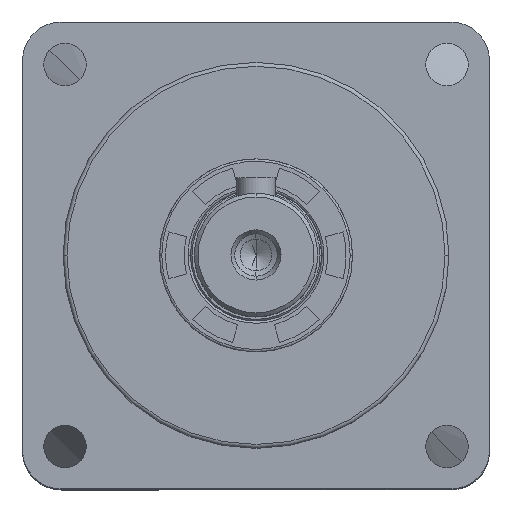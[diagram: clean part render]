
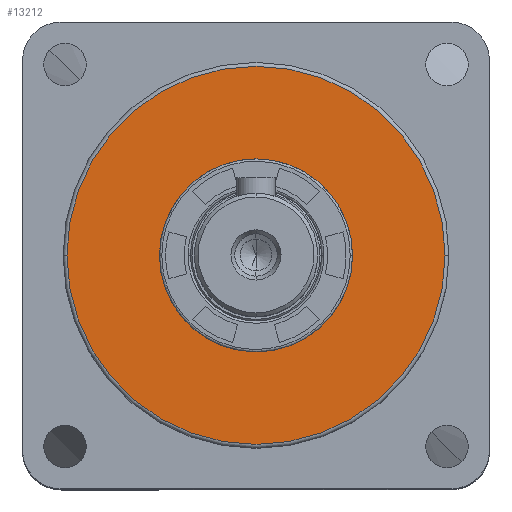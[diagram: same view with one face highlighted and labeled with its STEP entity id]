
A CAD part, top view. The second image highlights one B-rep face of the part: STEP entity #13212.
In plain terms, the highlighted planar face has unit normal (0, 0, 1).
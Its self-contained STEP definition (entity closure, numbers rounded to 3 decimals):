
#292 = CARTESIAN_POINT ( 'NONE',  ( 24.5, 0., 21. ) ) ;
#708 = DIRECTION ( 'NONE',  ( 1., 0., 0. ) ) ;
#1155 = DIRECTION ( 'NONE',  ( 1., 0., 0. ) ) ;
#1482 = VERTEX_POINT ( 'NONE', #15705 ) ;
#2307 = EDGE_CURVE ( 'NONE', #24252, #6247, #6060, .T. ) ;
#6060 = CIRCLE ( 'NONE', #30870, 12.5 ) ;
#6193 = DIRECTION ( 'NONE',  ( 0., 0., 1. ) ) ;
#6247 = VERTEX_POINT ( 'NONE', #23245 ) ;
#6817 = VERTEX_POINT ( 'NONE', #292 ) ;
#8497 = FACE_BOUND ( 'NONE', #16969, .T. ) ;
#8615 = ORIENTED_EDGE ( 'NONE', *, *, #2307, .F. ) ;
#8817 = DIRECTION ( 'NONE',  ( 1., 0., 0. ) ) ;
#9101 = CARTESIAN_POINT ( 'NONE',  ( 0., 0., 21. ) ) ;
#10520 = AXIS2_PLACEMENT_3D ( 'NONE', #21315, #6193, #1155 ) ;
#10826 = CARTESIAN_POINT ( 'NONE',  ( -12.5, 0., 21. ) ) ;
#11740 = DIRECTION ( 'NONE',  ( 1., 0., 0. ) ) ;
#13212 = ADVANCED_FACE ( 'NONE', ( #22639, #8497 ), #31792, .T. ) ;
#13682 = DIRECTION ( 'NONE',  ( 0., 0., 1. ) ) ;
#15705 = CARTESIAN_POINT ( 'NONE',  ( -24.5, 0., 21. ) ) ;
#16089 = CARTESIAN_POINT ( 'NONE',  ( 0., 0., 21. ) ) ;
#16969 = EDGE_LOOP ( 'NONE', ( #17352, #8615 ) ) ;
#17352 = ORIENTED_EDGE ( 'NONE', *, *, #31948, .F. ) ;
#20027 = CIRCLE ( 'NONE', #29859, 12.5 ) ;
#21315 = CARTESIAN_POINT ( 'NONE',  ( 0., 0., 21. ) ) ;
#21870 = CARTESIAN_POINT ( 'NONE',  ( 0., 0., 21. ) ) ;
#22639 = FACE_OUTER_BOUND ( 'NONE', #32080, .T. ) ;
#22823 = AXIS2_PLACEMENT_3D ( 'NONE', #25891, #28481, #708 ) ;
#23245 = CARTESIAN_POINT ( 'NONE',  ( 12.5, 0., 21. ) ) ;
#24252 = VERTEX_POINT ( 'NONE', #10826 ) ;
#24389 = CIRCLE ( 'NONE', #10520, 24.5 ) ;
#25464 = ORIENTED_EDGE ( 'NONE', *, *, #28324, .T. ) ;
#25891 = CARTESIAN_POINT ( 'NONE',  ( 0., 0., 21. ) ) ;
#26562 = EDGE_CURVE ( 'NONE', #1482, #6817, #28313, .T. ) ;
#26633 = DIRECTION ( 'NONE',  ( 0., 0., 1. ) ) ;
#26892 = DIRECTION ( 'NONE',  ( 0., 0., 1. ) ) ;
#28313 = CIRCLE ( 'NONE', #22823, 24.5 ) ;
#28324 = EDGE_CURVE ( 'NONE', #6817, #1482, #24389, .T. ) ;
#28481 = DIRECTION ( 'NONE',  ( 0., 0., 1. ) ) ;
#29059 = DIRECTION ( 'NONE',  ( 1., 0., 0. ) ) ;
#29437 = AXIS2_PLACEMENT_3D ( 'NONE', #21870, #26892, #29059 ) ;
#29859 = AXIS2_PLACEMENT_3D ( 'NONE', #16089, #13682, #8817 ) ;
#30870 = AXIS2_PLACEMENT_3D ( 'NONE', #9101, #26633, #11740 ) ;
#31792 = PLANE ( 'NONE',  #29437 ) ;
#31887 = ORIENTED_EDGE ( 'NONE', *, *, #26562, .T. ) ;
#31948 = EDGE_CURVE ( 'NONE', #6247, #24252, #20027, .T. ) ;
#32080 = EDGE_LOOP ( 'NONE', ( #25464, #31887 ) ) ;
